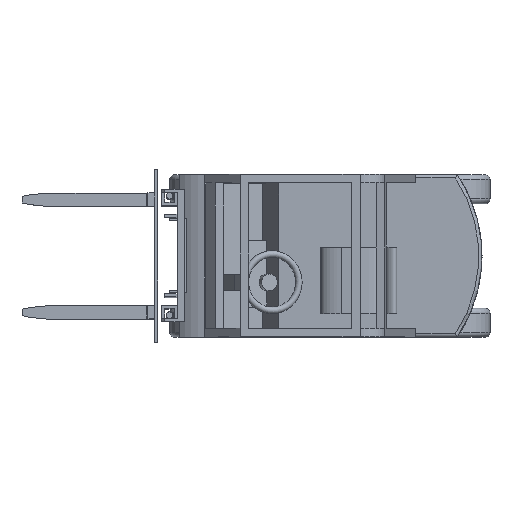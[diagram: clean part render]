
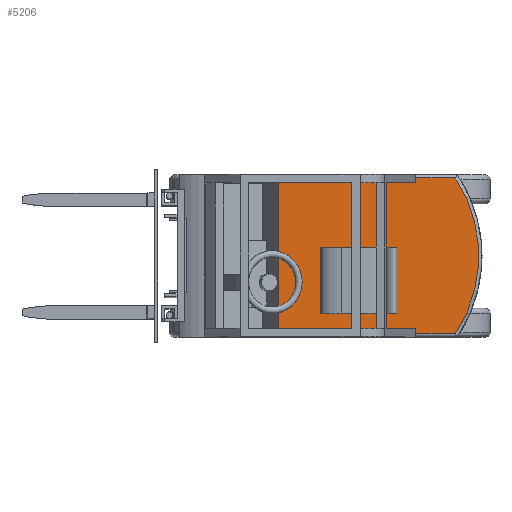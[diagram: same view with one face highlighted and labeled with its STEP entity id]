
A CAD part, top view. The second image highlights one B-rep face of the part: STEP entity #5206.
In plain terms, the highlighted planar face has unit normal (0, 0, 1).
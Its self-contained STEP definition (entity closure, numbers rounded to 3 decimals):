
#5064=CARTESIAN_POINT('',(2495.028,154.813,760.));
#5065=VERTEX_POINT('',#5064);
#5083=CARTESIAN_POINT('',(2734.324,154.813,760.));
#5084=VERTEX_POINT('',#5083);
#5102=CARTESIAN_POINT('',(2734.324,154.813,760.));
#5103=DIRECTION('',(-1.0,0.0,0.0));
#5104=VECTOR('',#5103,239.296);
#5105=LINE('',#5102,#5104);
#5106=EDGE_CURVE('',#5084,#5065,#5105,.T.);
#5117=CARTESIAN_POINT('',(2495.028,184.813,760.));
#5118=VERTEX_POINT('',#5117);
#5119=CARTESIAN_POINT('',(2495.028,184.813,760.));
#5120=DIRECTION('',(0.0,-1.0,0.0));
#5121=VECTOR('',#5120,30.);
#5122=LINE('',#5119,#5121);
#5123=EDGE_CURVE('',#5118,#5065,#5122,.T.);
#5150=CARTESIAN_POINT('',(2232.528,624.813,760.));
#5151=DIRECTION('',(0.0,0.0,1.0));
#5152=DIRECTION('',(1.0,0.0,0.0));
#5153=AXIS2_PLACEMENT_3D('',#5150,#5151,#5152);
#5154=PLANE('',#5153);
#5155=ORIENTED_EDGE('',*,*,#5106,.F.);
#5156=CARTESIAN_POINT('',(2734.324,1094.813,760.));
#5157=VERTEX_POINT('',#5156);
#5158=CARTESIAN_POINT('',(2019.694,624.813,760.));
#5159=DIRECTION('',(0.0,0.0,-1.0));
#5160=DIRECTION('',(1.0,0.0,0.0));
#5161=AXIS2_PLACEMENT_3D('',#5158,#5159,#5160);
#5162=CIRCLE('',#5161,855.333);
#5163=EDGE_CURVE('',#5157,#5084,#5162,.T.);
#5164=ORIENTED_EDGE('',*,*,#5163,.F.);
#5165=CARTESIAN_POINT('',(2495.028,1094.813,760.));
#5166=VERTEX_POINT('',#5165);
#5167=CARTESIAN_POINT('',(2495.028,1094.813,760.));
#5168=DIRECTION('',(1.0,0.0,0.0));
#5169=VECTOR('',#5168,239.296);
#5170=LINE('',#5167,#5169);
#5171=EDGE_CURVE('',#5166,#5157,#5170,.T.);
#5172=ORIENTED_EDGE('',*,*,#5171,.F.);
#5173=CARTESIAN_POINT('',(2495.028,1064.813,760.));
#5174=VERTEX_POINT('',#5173);
#5175=CARTESIAN_POINT('',(2495.028,1094.813,760.));
#5176=DIRECTION('',(0.0,-1.0,0.0));
#5177=VECTOR('',#5176,30.0);
#5178=LINE('',#5175,#5177);
#5179=EDGE_CURVE('',#5166,#5174,#5178,.T.);
#5180=ORIENTED_EDGE('',*,*,#5179,.T.);
#5181=CARTESIAN_POINT('',(1670.028,1064.813,760.));
#5182=VERTEX_POINT('',#5181);
#5183=CARTESIAN_POINT('',(2495.028,1064.813,760.));
#5184=DIRECTION('',(-1.0,0.0,0.0));
#5185=VECTOR('',#5184,825.);
#5186=LINE('',#5183,#5185);
#5187=EDGE_CURVE('',#5174,#5182,#5186,.T.);
#5188=ORIENTED_EDGE('',*,*,#5187,.T.);
#5189=CARTESIAN_POINT('',(1670.028,184.813,760.));
#5190=VERTEX_POINT('',#5189);
#5191=CARTESIAN_POINT('',(1670.028,1064.813,760.));
#5192=DIRECTION('',(0.0,-1.0,0.0));
#5193=VECTOR('',#5192,880.);
#5194=LINE('',#5191,#5193);
#5195=EDGE_CURVE('',#5182,#5190,#5194,.T.);
#5196=ORIENTED_EDGE('',*,*,#5195,.T.);
#5197=CARTESIAN_POINT('',(1670.028,184.813,760.));
#5198=DIRECTION('',(1.0,0.0,0.0));
#5199=VECTOR('',#5198,825.);
#5200=LINE('',#5197,#5199);
#5201=EDGE_CURVE('',#5190,#5118,#5200,.T.);
#5202=ORIENTED_EDGE('',*,*,#5201,.T.);
#5203=ORIENTED_EDGE('',*,*,#5123,.T.);
#5204=EDGE_LOOP('',(#5155,#5164,#5172,#5180,#5188,#5196,#5202,#5203));
#5205=FACE_OUTER_BOUND('',#5204,.T.);
#5206=ADVANCED_FACE('',(#5205),#5154,.T.);
